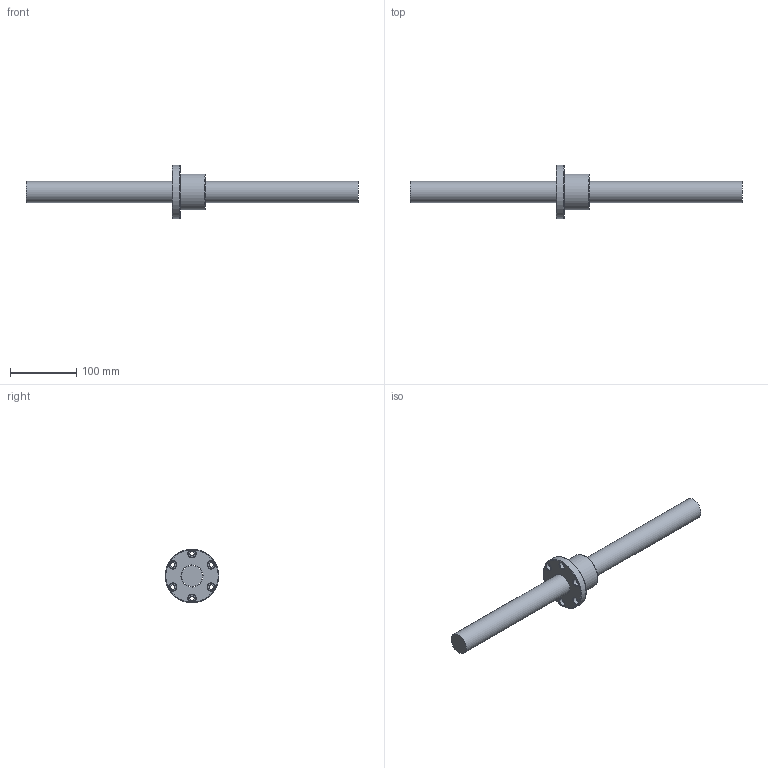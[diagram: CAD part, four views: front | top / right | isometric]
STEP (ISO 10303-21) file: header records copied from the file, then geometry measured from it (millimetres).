
FILE_DESCRIPTION (( 'STEP AP203' ), '1' );
FILE_NAME ('SFV03204N-4.8.step', '2024-05-20T03:38:47', ( '' ), ( '' ), 'SwSTEP 2.0', 'SolidWorks 2022', '' );
FILE_SCHEMA (( 'CONFIG_CONTROL_DESIGN' ));
Length unit declared in the file: millimetre
Products named in the file (1): SFV03204N-4.8
Bounding box: 500 x 81 x 81 mm (x, y, z)
Volume: 502153.2 mm3; surface area: 76730.7 mm2
Topology: 2 solids, 2 shells, 55 faces, 139 edges, 89 vertices
Faces by surface type: cylinder 23, cone 13, plane 12, bspline 4, torus 3
Full cylindrical faces by diameter (mm): 4 x1, 5 x5, 6.6 x6, 11 x6, 32 x1, 33.3 x1, 54 x1, 81 x1
Entity records: 2977 total; most frequent: CARTESIAN_POINT 1926, DIRECTION 206, ORIENTED_EDGE 148, EDGE_LOOP 102, AXIS2_PLACEMENT_3D 101, EDGE_CURVE 74, FACE_OUTER_BOUND 72, VERTEX_POINT 64
